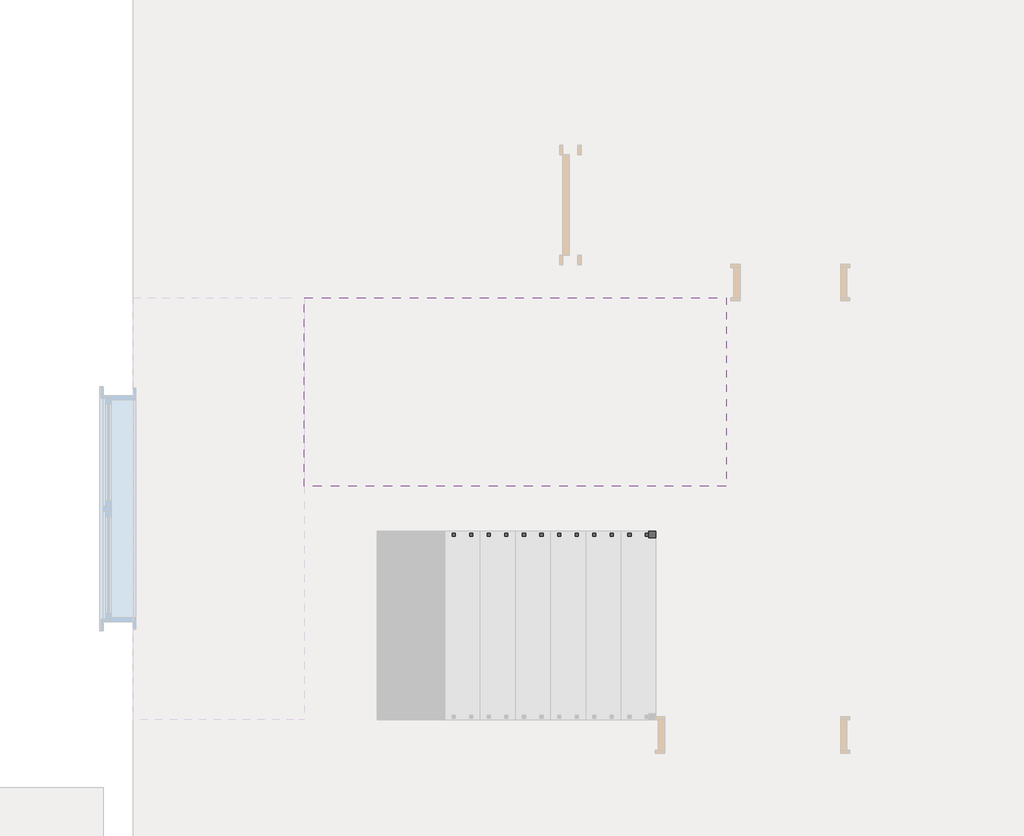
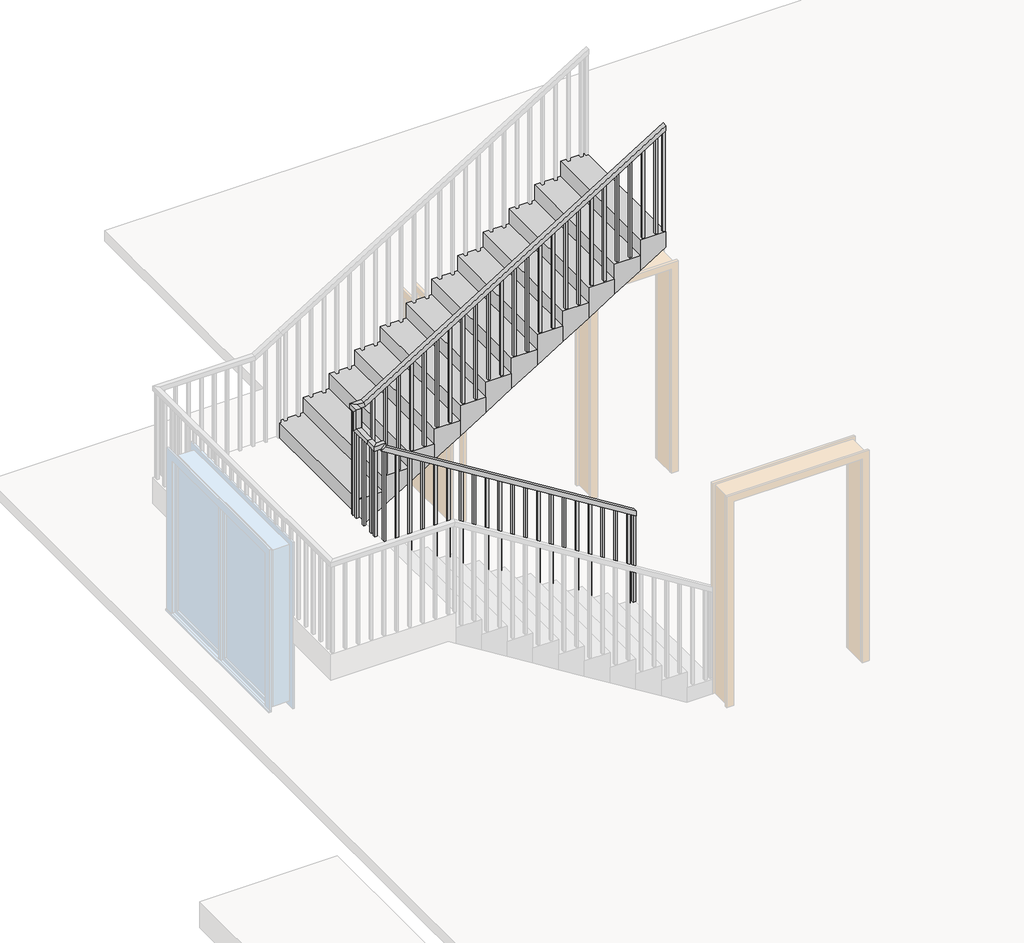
# One storey, part 3 of 3: 1 railing, 1 stair flight.
"""IFC4 building model written with IfcOpenShell, lengths in millimetres."""

from ifc_helpers import new_model, si_unit, frame, origin, place, context, project, spatial, polyline, outline, extrude, faceted_brep, element, save

model = new_model("IFC4")

# Units and contexts
model_context = context("Model", 3, world=origin())
ifc_project = project(units=[si_unit("LENGTHUNIT", "METRE", prefix="MILLI")], contexts=[model_context])

# Site, building, storey
site = spatial("IfcSite", under=ifc_project)
building = spatial("IfcBuilding", under=site)
storey = spatial("IfcBuildingStorey", under=building, Name="标高 1", Elevation=0.0)

# Railing
placement = place(None, origin())
element("IfcRailing", 1, ObjectType="1050", at=placement, inside=storey, context=model_context, shape_type="SolidModel", body=[
    faceted_brep([(725.1052473, -2759.168361, 1223.6842105), (725.1052473, -2759.168361, 1164.8460209), (725.1052473, -2709.168361, 1164.8460209), (725.1052473, -2709.168361, 1223.6842105), (-2000.2947527, -2759.168361, 2914.2518797), (-2050.2947527, -2759.168361, 2886.4287277), (-2050.2947527, -2709.168361, 2886.4287277), (-2000.2947527, -2709.168361, 2914.2518797), (-2000.2947527, -2759.168361, 2960.5263158), (-2050.2947527, -2759.168361, 2910.5263158), (-2050.2947527, -2709.168361, 2910.5263158), (-2000.2947527, -2709.168361, 2960.5263158), (-2125.2947527, -2759.168361, 2960.5263158), (-2125.2947527, -2759.168361, 2910.5263158), (-2075.2947527, -2709.168361, 2910.5263158), (-2075.2947527, -2709.168361, 2960.5263158), (-2125.2947527, -2634.168361, 2960.5263158), (-2125.2947527, -2634.168361, 2910.5263158), (-2075.2947527, -2634.168361, 2910.5263158), (-2075.2947527, -2634.168361, 2960.5263158), (-2125.2947527, -2423.368361, 2960.5263158), (-2125.2947527, -2373.368361, 2910.5263158), (-2075.2947527, -2373.368361, 2910.5263158), (-2075.2947527, -2423.368361, 2960.5263158), (-2125.2947527, -2423.368361, 3180.4849624), (-2125.2947527, -2373.368361, 3130.4849624), (-2075.2947527, -2373.368361, 3130.4849624), (-2075.2947527, -2423.368361, 3180.4849624), (-2125.2947527, -2298.368361, 3180.4849624), (-2125.2947527, -2298.368361, 3130.4849624), (-2075.2947527, -2348.368361, 3130.4849624), (-2075.2947527, -2348.368361, 3180.4849624), (-2000.2947527, -2298.368361, 3180.4849624), (-1986.0465198, -2298.368361, 3130.4849624), (-1986.0465198, -2348.368361, 3130.4849624), (-2000.2947527, -2348.368361, 3180.4849624), (1285.1052473, -2298.368361, 5218.4210526), (1285.1052473, -2348.368361, 5218.4210526), (1285.1052473, -2348.368361, 5159.582863), (1285.1052473, -2298.368361, 5159.582863)], [[[0, 1, 2, 3]], [[1, 0, 4, 5]], [[2, 1, 5, 6]], [[3, 2, 6, 7]], [[0, 3, 7, 4]], [[5, 4, 8, 9]], [[6, 5, 9, 10]], [[7, 6, 10, 11]], [[4, 7, 11, 8]], [[9, 8, 12, 13]], [[10, 9, 13, 14]], [[11, 10, 14, 15]], [[8, 11, 15, 12]], [[13, 12, 16, 17]], [[14, 13, 17, 18]], [[15, 14, 18, 19]], [[12, 15, 19, 16]], [[17, 16, 20, 21]], [[18, 17, 21, 22]], [[19, 18, 22, 23]], [[16, 19, 23, 20]], [[21, 20, 24, 25]], [[22, 21, 25, 26]], [[23, 22, 26, 27]], [[20, 23, 27, 24]], [[25, 24, 28, 29]], [[26, 25, 29, 30]], [[27, 26, 30, 31]], [[24, 27, 31, 28]], [[29, 28, 32, 33]], [[30, 29, 33, 34]], [[31, 30, 34, 35]], [[28, 31, 35, 32]], [[36, 37, 38, 39]], [[33, 32, 36, 39]], [[34, 33, 39, 38]], [[35, 34, 38, 37]], [[32, 35, 37, 36]]]),
    extrude(outline(polyline([(5092.6524119, 1177.2052473), (3994.7368421, 1177.2052473), (3994.7368421, 1202.2052473), (5108.1599307, 1202.2052473), (5092.6524119, 1177.2052473)])), frame((0.0, -2335.868361, 0.0), z_axis=(0.0, 1.0, 0.0), x_axis=(0.0, 0.0, 1.0)), (0.0, 0.0, 1.0), 25.0),
    extrude(outline(polyline([(5005.8103066, 1037.2052473), (3994.7368421, 1037.2052473), (3994.7368421, 1062.2052473), (5021.3178254, 1062.2052473), (5005.8103066, 1037.2052473)])), frame((0.0, -2335.868361, 0.0), z_axis=(0.0, 1.0, 0.0), x_axis=(0.0, 0.0, 1.0)), (0.0, 0.0, 1.0), 25.0),
    extrude(outline(polyline([(4918.9682014, 897.2052473), (3821.0526316, 897.2052473), (3821.0526316, 922.2052473), (4934.4757202, 922.2052473), (4918.9682014, 897.2052473)])), frame((0.0, -2335.868361, 0.0), z_axis=(0.0, 1.0, 0.0), x_axis=(0.0, 0.0, 1.0)), (0.0, 0.0, 1.0), 25.0),
    extrude(outline(polyline([(4832.1260961, 757.2052473), (3821.0526316, 757.2052473), (3821.0526316, 782.2052473), (4847.6336149, 782.2052473), (4832.1260961, 757.2052473)])), frame((0.0, -2335.868361, 0.0), z_axis=(0.0, 1.0, 0.0), x_axis=(0.0, 0.0, 1.0)), (0.0, 0.0, 1.0), 25.0),
    extrude(outline(polyline([(4745.2839908, 617.2052473), (3647.3684211, 617.2052473), (3647.3684211, 642.2052473), (4760.7915096, 642.2052473), (4745.2839908, 617.2052473)])), frame((0.0, -2335.868361, 0.0), z_axis=(0.0, 1.0, 0.0), x_axis=(0.0, 0.0, 1.0)), (0.0, 0.0, 1.0), 25.0),
    extrude(outline(polyline([(4658.4418856, 477.2052473), (3647.3684211, 477.2052473), (3647.3684211, 502.2052473), (4673.9494044, 502.2052473), (4658.4418856, 477.2052473)])), frame((0.0, -2335.868361, 0.0), z_axis=(0.0, 1.0, 0.0), x_axis=(0.0, 0.0, 1.0)), (0.0, 0.0, 1.0), 25.0),
    extrude(outline(polyline([(4571.5997803, 337.2052473), (3473.6842105, 337.2052473), (3473.6842105, 362.2052473), (4587.1072991, 362.2052473), (4571.5997803, 337.2052473)])), frame((0.0, -2335.868361, 0.0), z_axis=(0.0, 1.0, 0.0), x_axis=(0.0, 0.0, 1.0)), (0.0, 0.0, 1.0), 25.0),
    extrude(outline(polyline([(4484.757675, 197.2052473), (3473.6842105, 197.2052473), (3473.6842105, 222.2052473), (4500.2651938, 222.2052473), (4484.757675, 197.2052473)])), frame((0.0, -2335.868361, 0.0), z_axis=(0.0, 1.0, 0.0), x_axis=(0.0, 0.0, 1.0)), (0.0, 0.0, 1.0), 25.0),
    extrude(outline(polyline([(4397.9155698, 57.2052473), (3300.0, 57.2052473), (3300.0, 82.2052473), (4413.4230886, 82.2052473), (4397.9155698, 57.2052473)])), frame((0.0, -2335.868361, 0.0), z_axis=(0.0, 1.0, 0.0), x_axis=(0.0, 0.0, 1.0)), (0.0, 0.0, 1.0), 25.0),
    extrude(outline(polyline([(4311.0734645, -82.7947527), (3300.0, -82.7947527), (3300.0, -57.7947527), (4326.5809833, -57.7947527), (4311.0734645, -82.7947527)])), frame((0.0, -2335.868361, 0.0), z_axis=(0.0, 1.0, 0.0), x_axis=(0.0, 0.0, 1.0)), (0.0, 0.0, 1.0), 25.0),
    extrude(outline(polyline([(4224.2313593, -222.7947527), (3126.3157895, -222.7947527), (3126.3157895, -197.7947527), (4239.7388781, -197.7947527), (4224.2313593, -222.7947527)])), frame((0.0, -2335.868361, 0.0), z_axis=(0.0, 1.0, 0.0), x_axis=(0.0, 0.0, 1.0)), (0.0, 0.0, 1.0), 25.0),
    extrude(outline(polyline([(4137.389254, -362.7947527), (3126.3157895, -362.7947527), (3126.3157895, -337.7947527), (4152.8967728, -337.7947527), (4137.389254, -362.7947527)])), frame((0.0, -2335.868361, 0.0), z_axis=(0.0, 1.0, 0.0), x_axis=(0.0, 0.0, 1.0)), (0.0, 0.0, 1.0), 25.0),
    extrude(outline(polyline([(4050.5471487, -502.7947527), (2952.6315789, -502.7947527), (2952.6315789, -477.7947527), (4066.0546675, -477.7947527), (4050.5471487, -502.7947527)])), frame((0.0, -2335.868361, 0.0), z_axis=(0.0, 1.0, 0.0), x_axis=(0.0, 0.0, 1.0)), (0.0, 0.0, 1.0), 25.0),
    extrude(outline(polyline([(3963.7050435, -642.7947527), (2952.6315789, -642.7947527), (2952.6315789, -617.7947527), (3979.2125623, -617.7947527), (3963.7050435, -642.7947527)])), frame((0.0, -2335.868361, 0.0), z_axis=(0.0, 1.0, 0.0), x_axis=(0.0, 0.0, 1.0)), (0.0, 0.0, 1.0), 25.0),
    extrude(outline(polyline([(3876.8629382, -782.7947527), (2778.9473684, -782.7947527), (2778.9473684, -757.7947527), (3892.370457, -757.7947527), (3876.8629382, -782.7947527)])), frame((0.0, -2335.868361, 0.0), z_axis=(0.0, 1.0, 0.0), x_axis=(0.0, 0.0, 1.0)), (0.0, 0.0, 1.0), 25.0),
    extrude(outline(polyline([(3790.0208329, -922.7947527), (2778.9473684, -922.7947527), (2778.9473684, -897.7947527), (3805.5283517, -897.7947527), (3790.0208329, -922.7947527)])), frame((0.0, -2335.868361, 0.0), z_axis=(0.0, 1.0, 0.0), x_axis=(0.0, 0.0, 1.0)), (0.0, 0.0, 1.0), 25.0),
    extrude(outline(polyline([(3703.1787277, -1062.7947527), (2605.2631579, -1062.7947527), (2605.2631579, -1037.7947527), (3718.6862465, -1037.7947527), (3703.1787277, -1062.7947527)])), frame((0.0, -2335.868361, 0.0), z_axis=(0.0, 1.0, 0.0), x_axis=(0.0, 0.0, 1.0)), (0.0, 0.0, 1.0), 25.0),
    extrude(outline(polyline([(3616.3366224, -1202.7947527), (2605.2631579, -1202.7947527), (2605.2631579, -1177.7947527), (3631.8441412, -1177.7947527), (3616.3366224, -1202.7947527)])), frame((0.0, -2335.868361, 0.0), z_axis=(0.0, 1.0, 0.0), x_axis=(0.0, 0.0, 1.0)), (0.0, 0.0, 1.0), 25.0),
    extrude(outline(polyline([(3529.4945172, -1342.7947527), (2431.5789474, -1342.7947527), (2431.5789474, -1317.7947527), (3545.002036, -1317.7947527), (3529.4945172, -1342.7947527)])), frame((0.0, -2335.868361, 0.0), z_axis=(0.0, 1.0, 0.0), x_axis=(0.0, 0.0, 1.0)), (0.0, 0.0, 1.0), 25.0),
    extrude(outline(polyline([(3442.6524119, -1482.7947527), (2431.5789474, -1482.7947527), (2431.5789474, -1457.7947527), (3458.1599307, -1457.7947527), (3442.6524119, -1482.7947527)])), frame((0.0, -2335.868361, 0.0), z_axis=(0.0, 1.0, 0.0), x_axis=(0.0, 0.0, 1.0)), (0.0, 0.0, 1.0), 25.0),
    extrude(outline(polyline([(3355.8103066, -1622.7947527), (2257.8947368, -1622.7947527), (2257.8947368, -1597.7947527), (3371.3178254, -1597.7947527), (3355.8103066, -1622.7947527)])), frame((0.0, -2335.868361, 0.0), z_axis=(0.0, 1.0, 0.0), x_axis=(0.0, 0.0, 1.0)), (0.0, 0.0, 1.0), 25.0),
    extrude(outline(polyline([(3268.9682014, -1762.7947527), (2257.8947368, -1762.7947527), (2257.8947368, -1737.7947527), (3284.4757202, -1737.7947527), (3268.9682014, -1762.7947527)])), frame((0.0, -2335.868361, 0.0), z_axis=(0.0, 1.0, 0.0), x_axis=(0.0, 0.0, 1.0)), (0.0, 0.0, 1.0), 25.0),
    extrude(outline(polyline([(3182.1260961, -1902.7947527), (2084.2105263, -1902.7947527), (2084.2105263, -1877.7947527), (3197.6336149, -1877.7947527), (3182.1260961, -1902.7947527)])), frame((0.0, -2335.868361, 0.0), z_axis=(0.0, 1.0, 0.0), x_axis=(0.0, 0.0, 1.0)), (0.0, 0.0, 1.0), 25.0),
    extrude(outline(polyline([(-2042.7947527, -2335.868361), (-2042.7947527, -2310.868361), (-2017.7947527, -2310.868361), (-2017.7947527, -2335.868361), (-2042.7947527, -2335.868361)])), frame((0.0, 0.0, 2084.2105263), z_axis=(0.0, 0.0, 1.0), x_axis=(1.0, 0.0, 0.0)), (0.0, 0.0, 1.0), 1046.2744361),
    extrude(outline(polyline([(-2087.7947527, -2396.668361), (-2112.7947527, -2396.668361), (-2112.7947527, -2371.668361), (-2087.7947527, -2371.668361), (-2087.7947527, -2396.668361)])), frame((0.0, 0.0, 1910.5263158), z_axis=(0.0, 0.0, 1.0), x_axis=(1.0, 0.0, 0.0)), (0.0, 0.0, 1.0), 1219.9586466),
    extrude(outline(polyline([(-2087.7947527, -2536.668361), (-2112.7947527, -2536.668361), (-2112.7947527, -2511.668361), (-2087.7947527, -2511.668361), (-2087.7947527, -2536.668361)])), frame((0.0, 0.0, 1910.5263158), z_axis=(0.0, 0.0, 1.0), x_axis=(1.0, 0.0, 0.0)), (0.0, 0.0, 1.0), 1000.0),
    extrude(outline(polyline([(-2087.7947527, -2676.668361), (-2112.7947527, -2676.668361), (-2112.7947527, -2651.668361), (-2087.7947527, -2651.668361), (-2087.7947527, -2676.668361)])), frame((0.0, 0.0, 1910.5263158), z_axis=(0.0, 0.0, 1.0), x_axis=(1.0, 0.0, 0.0)), (0.0, 0.0, 1.0), 1000.0),
    extrude(outline(polyline([(-1992.3947527, -2721.668361), (-1992.3947527, -2746.668361), (-2017.3947527, -2746.668361), (-2017.3947527, -2721.668361), (-1992.3947527, -2721.668361)])), frame((0.0, 0.0, 1736.8421053), z_axis=(0.0, 0.0, 1.0), x_axis=(1.0, 0.0, 0.0)), (0.0, 0.0, 1.0), 1173.6842105),
    extrude(outline(polyline([(1736.8421053, -1852.3947527), (2763.6712089, -1852.3947527), (2779.1787277, -1877.3947527), (1736.8421053, -1877.3947527), (1736.8421053, -1852.3947527)])), frame((0.0, -2746.668361, 0.0), z_axis=(0.0, 1.0, 0.0), x_axis=(0.0, 0.0, 1.0)), (0.0, 0.0, 1.0), 25.0),
    extrude(outline(polyline([(1563.1578947, -1712.3947527), (2676.8291036, -1712.3947527), (2692.3366224, -1737.3947527), (1563.1578947, -1737.3947527), (1563.1578947, -1712.3947527)])), frame((0.0, -2746.668361, 0.0), z_axis=(0.0, 1.0, 0.0), x_axis=(0.0, 0.0, 1.0)), (0.0, 0.0, 1.0), 25.0),
    extrude(outline(polyline([(1563.1578947, -1572.3947527), (2589.9869984, -1572.3947527), (2605.4945172, -1597.3947527), (1563.1578947, -1597.3947527), (1563.1578947, -1572.3947527)])), frame((0.0, -2746.668361, 0.0), z_axis=(0.0, 1.0, 0.0), x_axis=(0.0, 0.0, 1.0)), (0.0, 0.0, 1.0), 25.0),
    extrude(outline(polyline([(1389.4736842, -1432.3947527), (2503.1448931, -1432.3947527), (2518.6524119, -1457.3947527), (1389.4736842, -1457.3947527), (1389.4736842, -1432.3947527)])), frame((0.0, -2746.668361, 0.0), z_axis=(0.0, 1.0, 0.0), x_axis=(0.0, 0.0, 1.0)), (0.0, 0.0, 1.0), 25.0),
    extrude(outline(polyline([(1389.4736842, -1292.3947527), (2416.3027878, -1292.3947527), (2431.8103066, -1317.3947527), (1389.4736842, -1317.3947527), (1389.4736842, -1292.3947527)])), frame((0.0, -2746.668361, 0.0), z_axis=(0.0, 1.0, 0.0), x_axis=(0.0, 0.0, 1.0)), (0.0, 0.0, 1.0), 25.0),
    extrude(outline(polyline([(1215.7894737, -1152.3947527), (2329.4606826, -1152.3947527), (2344.9682014, -1177.3947527), (1215.7894737, -1177.3947527), (1215.7894737, -1152.3947527)])), frame((0.0, -2746.668361, 0.0), z_axis=(0.0, 1.0, 0.0), x_axis=(0.0, 0.0, 1.0)), (0.0, 0.0, 1.0), 25.0),
    extrude(outline(polyline([(1215.7894737, -1012.3947527), (2242.6185773, -1012.3947527), (2258.1260961, -1037.3947527), (1215.7894737, -1037.3947527), (1215.7894737, -1012.3947527)])), frame((0.0, -2746.668361, 0.0), z_axis=(0.0, 1.0, 0.0), x_axis=(0.0, 0.0, 1.0)), (0.0, 0.0, 1.0), 25.0),
    extrude(outline(polyline([(1042.1052632, -872.3947527), (2155.776472, -872.3947527), (2171.2839908, -897.3947527), (1042.1052632, -897.3947527), (1042.1052632, -872.3947527)])), frame((0.0, -2746.668361, 0.0), z_axis=(0.0, 1.0, 0.0), x_axis=(0.0, 0.0, 1.0)), (0.0, 0.0, 1.0), 25.0),
    extrude(outline(polyline([(1042.1052632, -732.3947527), (2068.9343668, -732.3947527), (2084.4418856, -757.3947527), (1042.1052632, -757.3947527), (1042.1052632, -732.3947527)])), frame((0.0, -2746.668361, 0.0), z_axis=(0.0, 1.0, 0.0), x_axis=(0.0, 0.0, 1.0)), (0.0, 0.0, 1.0), 25.0),
    extrude(outline(polyline([(868.4210526, -592.3947527), (1982.0922615, -592.3947527), (1997.5997803, -617.3947527), (868.4210526, -617.3947527), (868.4210526, -592.3947527)])), frame((0.0, -2746.668361, 0.0), z_axis=(0.0, 1.0, 0.0), x_axis=(0.0, 0.0, 1.0)), (0.0, 0.0, 1.0), 25.0),
    extrude(outline(polyline([(868.4210526, -452.3947527), (1895.2501563, -452.3947527), (1910.757675, -477.3947527), (868.4210526, -477.3947527), (868.4210526, -452.3947527)])), frame((0.0, -2746.668361, 0.0), z_axis=(0.0, 1.0, 0.0), x_axis=(0.0, 0.0, 1.0)), (0.0, 0.0, 1.0), 25.0),
    extrude(outline(polyline([(694.7368421, -312.3947527), (1808.408051, -312.3947527), (1823.9155698, -337.3947527), (694.7368421, -337.3947527), (694.7368421, -312.3947527)])), frame((0.0, -2746.668361, 0.0), z_axis=(0.0, 1.0, 0.0), x_axis=(0.0, 0.0, 1.0)), (0.0, 0.0, 1.0), 25.0),
    extrude(outline(polyline([(694.7368421, -172.3947527), (1721.5659457, -172.3947527), (1737.0734645, -197.3947527), (694.7368421, -197.3947527), (694.7368421, -172.3947527)])), frame((0.0, -2746.668361, 0.0), z_axis=(0.0, 1.0, 0.0), x_axis=(0.0, 0.0, 1.0)), (0.0, 0.0, 1.0), 25.0),
    extrude(outline(polyline([(521.0526316, -32.3947527), (1634.7238405, -32.3947527), (1650.2313593, -57.3947527), (521.0526316, -57.3947527), (521.0526316, -32.3947527)])), frame((0.0, -2746.668361, 0.0), z_axis=(0.0, 1.0, 0.0), x_axis=(0.0, 0.0, 1.0)), (0.0, 0.0, 1.0), 25.0),
    extrude(outline(polyline([(521.0526316, 107.6052473), (1547.8817352, 107.6052473), (1563.389254, 82.6052473), (521.0526316, 82.6052473), (521.0526316, 107.6052473)])), frame((0.0, -2746.668361, 0.0), z_axis=(0.0, 1.0, 0.0), x_axis=(0.0, 0.0, 1.0)), (0.0, 0.0, 1.0), 25.0),
    extrude(outline(polyline([(347.3684211, 247.6052473), (1461.0396299, 247.6052473), (1476.5471487, 222.6052473), (347.3684211, 222.6052473), (347.3684211, 247.6052473)])), frame((0.0, -2746.668361, 0.0), z_axis=(0.0, 1.0, 0.0), x_axis=(0.0, 0.0, 1.0)), (0.0, 0.0, 1.0), 25.0),
    extrude(outline(polyline([(347.3684211, 387.6052473), (1374.1975247, 387.6052473), (1389.7050435, 362.6052473), (347.3684211, 362.6052473), (347.3684211, 387.6052473)])), frame((0.0, -2746.668361, 0.0), z_axis=(0.0, 1.0, 0.0), x_axis=(0.0, 0.0, 1.0)), (0.0, 0.0, 1.0), 25.0),
    extrude(outline(polyline([(173.6842105, 527.6052473), (1287.3554194, 527.6052473), (1302.8629382, 502.6052473), (173.6842105, 502.6052473), (173.6842105, 527.6052473)])), frame((0.0, -2746.668361, 0.0), z_axis=(0.0, 1.0, 0.0), x_axis=(0.0, 0.0, 1.0)), (0.0, 0.0, 1.0), 25.0),
    extrude(outline(polyline([(173.6842105, 667.6052473), (1200.5133141, 667.6052473), (1216.0208329, 642.6052473), (173.6842105, 642.6052473), (173.6842105, 667.6052473)])), frame((0.0, -2746.668361, 0.0), z_axis=(0.0, 1.0, 0.0), x_axis=(0.0, 0.0, 1.0)), (0.0, 0.0, 1.0), 25.0),
    extrude(outline(polyline([(-2087.7947527, -2335.868361), (-2112.7947527, -2335.868361), (-2112.7947527, -2310.868361), (-2087.7947527, -2310.868361), (-2087.7947527, -2335.868361)])), frame((0.0, 0.0, 1910.5263158), z_axis=(0.0, 0.0, 1.0), x_axis=(1.0, 0.0, 0.0)), (0.0, 0.0, 1.0), 1219.9586466),
    extrude(outline(polyline([(-2087.7947527, -2721.668361), (-2087.7947527, -2746.668361), (-2112.7947527, -2746.668361), (-2112.7947527, -2721.668361), (-2087.7947527, -2721.668361)])), frame((0.0, 0.0, 1910.5263158), z_axis=(0.0, 0.0, 1.0), x_axis=(1.0, 0.0, 0.0)), (0.0, 0.0, 1.0), 1000.0),
    extrude(outline(polyline([(5144.0753442, 1260.1052473), (3994.7368421, 1260.1052473), (3994.7368421, 1285.1052473), (5159.582863, 1285.1052473), (5144.0753442, 1260.1052473)])), frame((0.0, -2335.868361, 0.0), z_axis=(0.0, 1.0, 0.0), x_axis=(0.0, 0.0, 1.0)), (0.0, 0.0, 1.0), 25.0),
    extrude(outline(polyline([(173.6842105, 725.1052473), (1164.8460209, 725.1052473), (1180.3535397, 700.1052473), (173.6842105, 700.1052473), (173.6842105, 725.1052473)])), frame((0.0, -2746.668361, 0.0), z_axis=(0.0, 1.0, 0.0), x_axis=(0.0, 0.0, 1.0)), (0.0, 0.0, 1.0), 25.0),
])

# Stair flight
element("IfcStairFlight", 2, ObjectType="150mm 结构深度", at=placement, inside=storey, context=model_context, shape_type="Brep", body=[
    faceted_brep([(-1794.8947527, -848.768361, 2084.2105263), (-2074.8947527, -848.768361, 2084.2105263), (-2074.8947527, -2348.768361, 2084.2105263), (-1794.8947527, -2348.768361, 2084.2105263), (-1794.8947527, -848.768361, 1907.6959575), (-2074.8947527, -848.768361, 1734.0117469), (-2074.8947527, -848.768361, 1910.5263158), (-2074.8947527, -2348.768361, 1734.0117469), (-1794.8947527, -2348.768361, 1907.6959575), (-1514.8947527, -848.768361, 2257.8947368), (-1794.8947527, -848.768361, 2257.8947368), (-1794.8947527, -2348.768361, 2257.8947368), (-1514.8947527, -2348.768361, 2257.8947368), (-1514.8947527, -848.768361, 2081.380168), (-1514.8947527, -2348.768361, 2081.380168), (-1234.8947527, -848.768361, 2431.5789474), (-1514.8947527, -848.768361, 2431.5789474), (-1514.8947527, -2348.768361, 2431.5789474), (-1234.8947527, -2348.768361, 2431.5789474), (-1234.8947527, -848.768361, 2255.0643785), (-1234.8947527, -2348.768361, 2255.0643785), (-954.8947527, -848.768361, 2605.2631579), (-1234.8947527, -848.768361, 2605.2631579), (-1234.8947527, -2348.768361, 2605.2631579), (-954.8947527, -2348.768361, 2605.2631579), (-954.8947527, -848.768361, 2428.7485891), (-954.8947527, -2348.768361, 2428.7485891), (-674.8947527, -848.768361, 2778.9473684), (-954.8947527, -848.768361, 2778.9473684), (-954.8947527, -2348.768361, 2778.9473684), (-674.8947527, -2348.768361, 2778.9473684), (-674.8947527, -848.768361, 2602.4327996), (-674.8947527, -2348.768361, 2602.4327996), (-394.8947527, -848.768361, 2952.6315789), (-674.8947527, -848.768361, 2952.6315789), (-674.8947527, -2348.768361, 2952.6315789), (-394.8947527, -2348.768361, 2952.6315789), (-394.8947527, -848.768361, 2776.1170101), (-394.8947527, -2348.768361, 2776.1170101), (-114.8947527, -848.768361, 3126.3157895), (-394.8947527, -848.768361, 3126.3157895), (-394.8947527, -2348.768361, 3126.3157895), (-114.8947527, -2348.768361, 3126.3157895), (-114.8947527, -848.768361, 2949.8012206), (-114.8947527, -2348.768361, 2949.8012206), (165.1052473, -848.768361, 3300.0), (-114.8947527, -848.768361, 3300.0), (-114.8947527, -2348.768361, 3300.0), (165.1052473, -2348.768361, 3300.0), (165.1052473, -848.768361, 3123.4854312), (165.1052473, -2348.768361, 3123.4854312), (445.1052473, -848.768361, 3473.6842105), (165.1052473, -848.768361, 3473.6842105), (165.1052473, -2348.768361, 3473.6842105), (445.1052473, -2348.768361, 3473.6842105), (445.1052473, -848.768361, 3297.1696417), (445.1052473, -2348.768361, 3297.1696417), (725.1052473, -848.768361, 3647.3684211), (445.1052473, -848.768361, 3647.3684211), (445.1052473, -2348.768361, 3647.3684211), (725.1052473, -2348.768361, 3647.3684211), (725.1052473, -848.768361, 3470.8538522), (725.1052473, -2348.768361, 3470.8538522), (1005.1052473, -848.768361, 3821.0526316), (725.1052473, -848.768361, 3821.0526316), (725.1052473, -2348.768361, 3821.0526316), (1005.1052473, -2348.768361, 3821.0526316), (1005.1052473, -848.768361, 3644.5380627), (1005.1052473, -2348.768361, 3644.5380627), (1285.1052473, -848.768361, 3818.2222733), (1285.1052473, -2348.768361, 3818.2222733), (1285.1052473, -848.768361, 3994.7368421), (1005.1052473, -848.768361, 3994.7368421), (1005.1052473, -2348.768361, 3994.7368421), (1285.1052473, -2348.768361, 3994.7368421)], [[[0, 1, 2, 3]], [[1, 0, 4, 5, 6]], [[2, 1, 6, 5, 7]], [[3, 2, 7, 8]], [[9, 10, 11, 12]], [[10, 9, 13, 4, 0]], [[11, 10, 0, 3]], [[12, 11, 3, 8, 14]], [[15, 16, 17, 18]], [[16, 15, 19, 13, 9]], [[17, 16, 9, 12]], [[18, 17, 12, 14, 20]], [[21, 22, 23, 24]], [[22, 21, 25, 19, 15]], [[23, 22, 15, 18]], [[24, 23, 18, 20, 26]], [[27, 28, 29, 30]], [[28, 27, 31, 25, 21]], [[29, 28, 21, 24]], [[30, 29, 24, 26, 32]], [[33, 34, 35, 36]], [[34, 33, 37, 31, 27]], [[35, 34, 27, 30]], [[36, 35, 30, 32, 38]], [[39, 40, 41, 42]], [[40, 39, 43, 37, 33]], [[41, 40, 33, 36]], [[42, 41, 36, 38, 44]], [[45, 46, 47, 48]], [[46, 45, 49, 43, 39]], [[47, 46, 39, 42]], [[48, 47, 42, 44, 50]], [[51, 52, 53, 54]], [[52, 51, 55, 49, 45]], [[53, 52, 45, 48]], [[54, 53, 48, 50, 56]], [[57, 58, 59, 60]], [[58, 57, 61, 55, 51]], [[59, 58, 51, 54]], [[60, 59, 54, 56, 62]], [[63, 64, 65, 66]], [[64, 63, 67, 61, 57]], [[65, 64, 57, 60]], [[66, 65, 60, 62, 68]], [[5, 4, 13, 19, 25, 31, 37, 43, 49, 55, 61, 67, 69, 70, 68, 62, 56, 50, 44, 38, 32, 26, 20, 14, 8, 7]], [[71, 72, 73, 74]], [[72, 71, 69, 67, 63]], [[73, 72, 63, 66]], [[74, 73, 66, 68, 70]], [[71, 74, 70, 69]]]),
])

save(model, "model.ifc")
